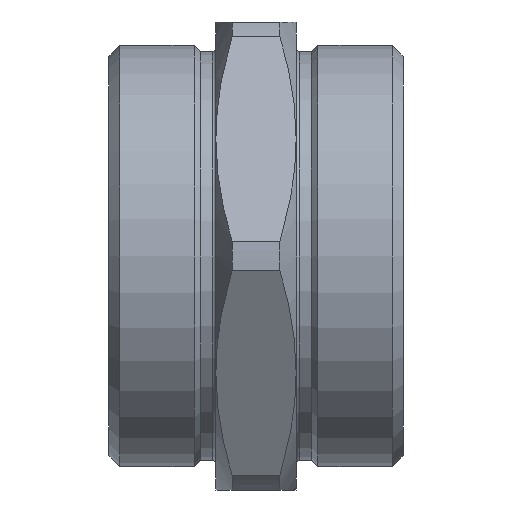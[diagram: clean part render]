
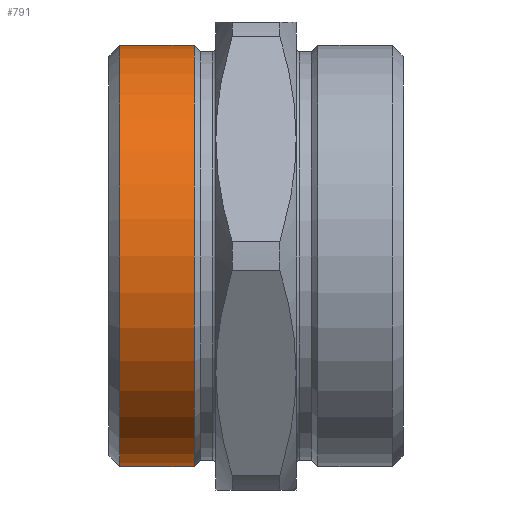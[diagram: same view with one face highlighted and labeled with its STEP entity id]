
A CAD part, front view. The second image highlights one B-rep face of the part: STEP entity #791.
In plain terms, the highlighted cylindrical face has radius 31.5 mm (diameter 63 mm), a partial arc.
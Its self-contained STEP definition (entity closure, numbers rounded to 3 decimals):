
#255 = EDGE_LOOP ( 'NONE', ( #1661, #1662, #1669, #1664 ) ) ;
#316 = VERTEX_POINT ( 'NONE', #1394 ) ;
#319 = VERTEX_POINT ( 'NONE', #1392 ) ;
#320 = VERTEX_POINT ( 'NONE', #1381 ) ;
#324 = VERTEX_POINT ( 'NONE', #1376 ) ;
#405 = LINE ( 'NONE', #1524, #410 ) ;
#410 = VECTOR ( 'NONE', #949, 1000. ) ;
#412 = LINE ( 'NONE', #1130, #414 ) ;
#414 = VECTOR ( 'NONE', #941, 1000. ) ;
#424 = CIRCLE ( 'NONE', #538, 31.5 ) ;
#431 = CIRCLE ( 'NONE', #530, 31.5 ) ;
#448 = AXIS2_PLACEMENT_3D ( 'NONE', #1037, #1039, #1061 ) ;
#530 = AXIS2_PLACEMENT_3D ( 'NONE', #1503, #1502, #1501 ) ;
#538 = AXIS2_PLACEMENT_3D ( 'NONE', #1517, #1516, #1515 ) ;
#554 = FACE_OUTER_BOUND ( 'NONE', #255, .T. ) ;
#562 = CYLINDRICAL_SURFACE ( 'NONE', #448, 31.5 ) ;
#626 = EDGE_CURVE ( 'NONE', #319, #324, #405, .T. ) ;
#629 = EDGE_CURVE ( 'NONE', #316, #320, #412, .T. ) ;
#644 = EDGE_CURVE ( 'NONE', #319, #316, #424, .T. ) ;
#648 = EDGE_CURVE ( 'NONE', #324, #320, #431, .T. ) ;
#791 = ADVANCED_FACE ( 'NONE', ( #554 ), #562, .T. ) ;
#941 = DIRECTION ( 'NONE',  ( 1., 0., 0. ) ) ;
#949 = DIRECTION ( 'NONE',  ( 1., 0., 0. ) ) ;
#1037 = CARTESIAN_POINT ( 'NONE',  ( 21.738, 0., 0. ) ) ;
#1039 = DIRECTION ( 'NONE',  ( 1., 0., 0. ) ) ;
#1061 = DIRECTION ( 'NONE',  ( 0., 0., -1. ) ) ;
#1130 = CARTESIAN_POINT ( 'NONE',  ( 21.738, 0., -31.5 ) ) ;
#1376 = CARTESIAN_POINT ( 'NONE',  ( -31.25, 0., 31.5 ) ) ;
#1381 = CARTESIAN_POINT ( 'NONE',  ( -31.25, 0., -31.5 ) ) ;
#1392 = CARTESIAN_POINT ( 'NONE',  ( -42.4, 0., 31.5 ) ) ;
#1394 = CARTESIAN_POINT ( 'NONE',  ( -42.4, 0., -31.5 ) ) ;
#1501 = DIRECTION ( 'NONE',  ( 0., 0., -1. ) ) ;
#1502 = DIRECTION ( 'NONE',  ( 1., 0., 0. ) ) ;
#1503 = CARTESIAN_POINT ( 'NONE',  ( -31.25, 0., 0. ) ) ;
#1515 = DIRECTION ( 'NONE',  ( 0., 0., -1. ) ) ;
#1516 = DIRECTION ( 'NONE',  ( 1., 0., 0. ) ) ;
#1517 = CARTESIAN_POINT ( 'NONE',  ( -42.4, 0., 0. ) ) ;
#1524 = CARTESIAN_POINT ( 'NONE',  ( 21.738, 0., 31.5 ) ) ;
#1661 = ORIENTED_EDGE ( 'NONE', *, *, #626, .F. ) ;
#1662 = ORIENTED_EDGE ( 'NONE', *, *, #644, .T. ) ;
#1664 = ORIENTED_EDGE ( 'NONE', *, *, #648, .F. ) ;
#1669 = ORIENTED_EDGE ( 'NONE', *, *, #629, .T. ) ;
